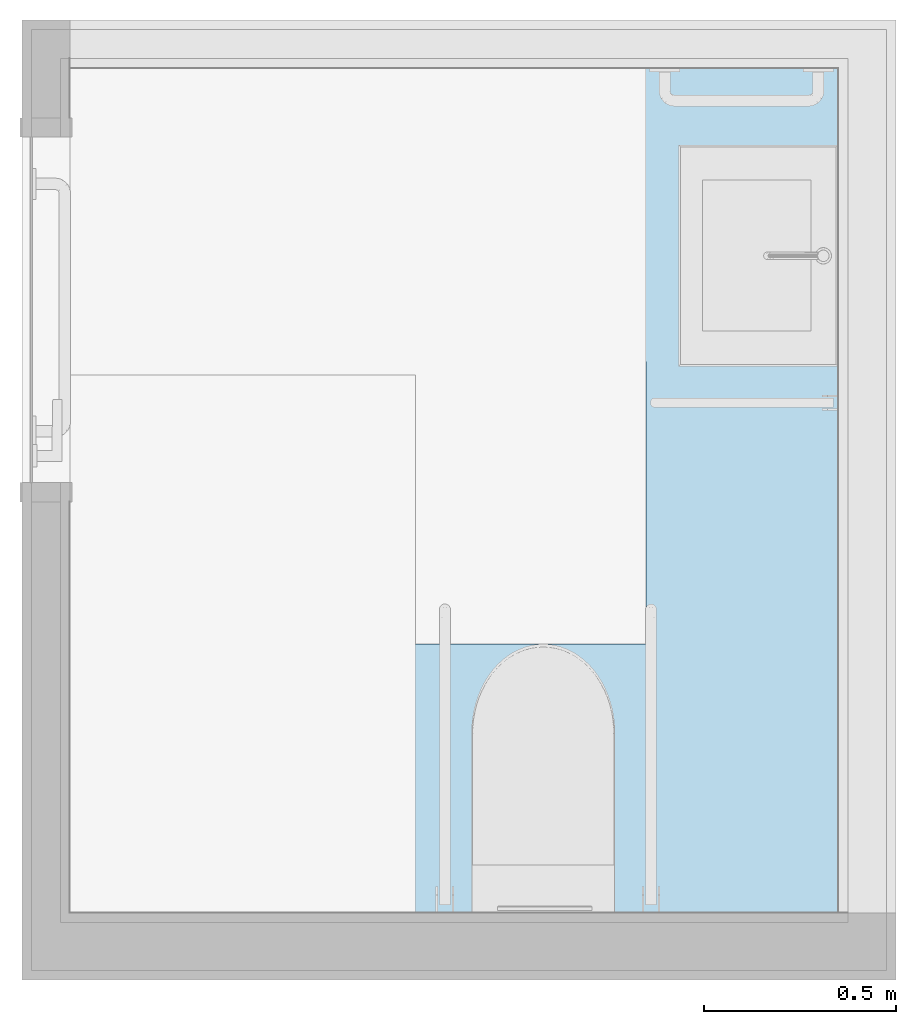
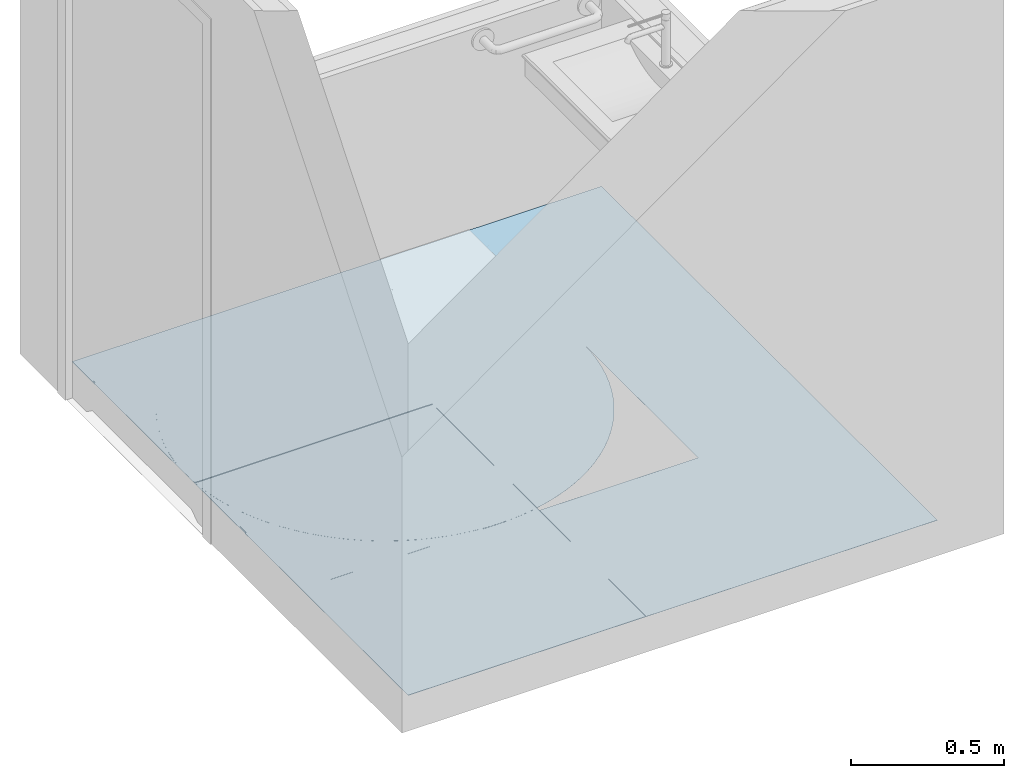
# One storey, part 1 of 4: 1 slab.
"""IFC2X3 building model written with IfcOpenShell, lengths in millimetres."""

from ifc_helpers import new_model, si_unit, frame, origin_with_axes, place, context, subcontext, project, spatial, faceted_brep, material, type_object, element, save


model = new_model("IFC2X3")

# Units and contexts
model_context = context("Model", 3, world=origin_with_axes())
body_context = subcontext(model_context, "Body", "Model", "MODEL_VIEW")
ifc_project = project(units=[si_unit("LENGTHUNIT", "METRE", prefix="MILLI"), si_unit("AREAUNIT", "SQUARE_METRE"), si_unit("VOLUMEUNIT", "CUBIC_METRE")], contexts=[model_context])

# Site, building, storey
site_placement = place(None, origin_with_axes())
site = spatial("IfcSite", under=ifc_project, at=site_placement, Name="Default Site", CompositionType="ELEMENT")
building_placement = place(site_placement, frame((2276.0499999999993, -7.219114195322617e-13, 0.0), z_axis=(0.0, 0.0, 1.0), x_axis=(2.9143354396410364e-16, 1.0, 0.0)))
building = spatial("IfcBuilding", under=site, at=building_placement, Name="Default Building", CompositionType="ELEMENT")
storey_placement = place(building_placement, origin_with_axes())
storey = spatial("IfcBuildingStorey", under=building, at=storey_placement, Name="Default Building Storey", CompositionType="ELEMENT", Elevation=0.0)

# Slab
ifc_material = material(Name="Marble_01_1K")
slab_type = type_object("IfcSlabType", Name="Podłoga", PredefinedType="FLOOR")
slab_placement = place(storey_placement, frame((175.00000000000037, 149.99999999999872, 0.0), z_axis=(0.0, 0.0, 1.0), x_axis=(1.0, 0.0, 0.0)))
element("IfcSlab", 1, at=slab_placement, inside=storey, type_object=slab_type, material=ifc_material, Name="Podłoga", context=body_context, shape_type="Brep", body=[
    faceted_brep([(1450.00000000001, 501.05000000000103, 0.9999999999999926), (2200.0000000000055, 501.0500000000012, 0.9999999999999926), (2200.0000000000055, 501.0500000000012, 1.2000000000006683), (1450.00000000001, 501.05000000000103, 1.2000000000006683), (700.0000000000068, 1251.0500000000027, 1.4999999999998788), (700.0000000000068, 1251.0500000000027, 1.1999999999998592), (701.4799536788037, 1203.9571103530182, 1.2000000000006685), (701.4799536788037, 1203.9571103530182, 1.4999999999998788), (2020.070000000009, 2001.050000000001, 0.0), (1400.0000000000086, 2001.0500000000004, 0.0), (1400.0000000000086, 2001.0500000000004, 0.9999999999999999), (1450.0000000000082, 2001.0500000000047, 0.9999999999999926), (1450.0000000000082, 2001.0500000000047, 1.200000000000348), (2020.070000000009, 2001.050000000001, 1.2000000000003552), (2020.070000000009, 2001.050000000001, 0.9999999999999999), (1120.0700000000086, 2001.0499999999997, 0.0), (1120.0700000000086, 2001.0499999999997, 0.9999999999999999), (1120.0700000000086, 2001.0499999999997, 1.2), (1400.0000000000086, 2001.0500000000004, 1.2), (2200.0000000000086, 2001.050000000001, 0.0), (2070.0700000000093, 2001.050000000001, 0.0), (2070.0700000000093, 2001.050000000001, 0.9999999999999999), (2070.0700000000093, 2001.050000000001, 1.2000000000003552), (2200.0000000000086, 2001.050000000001, 1.2000000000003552), (705.9139740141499, 1157.0500748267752, 1.2000000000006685), (705.9139740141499, 1157.0500748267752, 1.4999999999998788), (713.2845619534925, 1110.5140140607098, 1.4999999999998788), (713.2845619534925, 1110.5140140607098, 1.2000000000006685), (715.4000197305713, 1101.0500000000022, 1.2000000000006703), (715.4000197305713, 1101.0500000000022, 1.4999999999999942), (2200.0000000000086, 0.0, 0.9999999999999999), (700.0000000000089, 501.050000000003, 0.9999999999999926), (700.0000000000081, 1101.0500000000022, 0.9999999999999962), (0.0, 1101.050000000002, 0.9999999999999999), (8.66293703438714e-12, 7.219114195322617e-13, 0.9999999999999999), (705.9139740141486, 1345.049925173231, 1.4999999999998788), (705.9139740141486, 1345.049925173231, 1.1999999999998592), (701.4799536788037, 1298.1428896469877, 1.1999999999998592), (701.4799536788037, 1298.1428896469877, 1.4999999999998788), (736.7076127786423, 1482.8127457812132, 1.4999999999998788), (736.7076127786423, 1482.8127457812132, 1.1999999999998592), (723.5626291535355, 1437.5674153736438, 1.1999999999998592), (723.5626291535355, 1437.5674153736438, 1.4999999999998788), (700.0000000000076, 1551.0500000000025, 1.2), (700.0000000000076, 1551.0500000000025, 0.9999999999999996), (700.0000000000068, 1251.0500000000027, 0.9999999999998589), (700.0000000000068, 2001.0500000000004, 1.1999999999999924), (700.0000000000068, 2001.0500000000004, 0.9999999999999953), (1400.0000000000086, 1999.2952434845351, 0.9999999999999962), (1402.9071103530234, 1999.5700463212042, 0.9999999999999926), (1396.7998126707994, 1998.9927367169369, 0.9999999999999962), (1396.7998126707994, 1998.9927367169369, 1.1999999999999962), (1396.7998126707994, 1998.9927367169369, 1.499999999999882), (1396.7998126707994, 1998.9927367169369, 1.999999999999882), (1400.0000000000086, 1999.2952434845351, 1.9999999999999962), (1400.0000000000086, 1999.2952434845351, 1.4999999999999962), (0.0, 1101.050000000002, 0.0), (1400.0000000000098, 1101.0500000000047, 0.0), (1400.0000000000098, 1101.0500000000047, 1.4999999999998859), (700.0000000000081, 1101.0500000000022, 1.2000000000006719), (2200.0000000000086, 3.6095570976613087e-13, 0.0), (2200.0000000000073, 1251.0500000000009, 1.200000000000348), (749.7583284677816, 1519.062503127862, 1.4999999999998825), (749.7583284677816, 1519.062503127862, 1.1999999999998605), (713.2845619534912, 1391.5859859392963, 1.4999999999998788), (713.2845619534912, 1391.5859859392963, 1.1999999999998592), (2070.0700000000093, 1996.0500000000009, 0.9999999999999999), (2020.070000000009, 1996.0500000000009, 0.9999999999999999), (2020.070000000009, 1996.0500000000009, 1.2000000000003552), (2070.0700000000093, 1996.0500000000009, 1.2000000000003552), (1402.9071103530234, 1999.5700463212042, 1.4999999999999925), (1450.0000000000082, 2001.0500000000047, 1.4999999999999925), (8.73061622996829e-12, 2001.0500000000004, 0.0), (1070.0700000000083, 2001.0499999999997, 1.3359591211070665e-13), (1070.0700000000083, 1996.0500000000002, 0.0), (1120.0700000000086, 1996.0500000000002, 1.3359591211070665e-13), (700.0000000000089, 501.050000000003, 1.2000000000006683), (1173.9065854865, 1948.382364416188, 1.4999999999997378), (1173.9065854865, 1948.382364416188, 1.1999999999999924), (1130.6655313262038, 1929.6702893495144, 1.1999999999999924), (1130.6655313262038, 1929.6702893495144, 1.4999999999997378), (816.7540558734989, 1652.9200962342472, 1.4999999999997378), (816.7540558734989, 1652.9200962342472, 1.1999999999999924), (792.7699899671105, 1612.365255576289, 1.1999999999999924), (792.7699899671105, 1612.365255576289, 1.4999999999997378), (1088.684744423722, 1908.2800100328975, 1.1999999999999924), (1088.684744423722, 1908.2800100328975, 1.4999999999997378), (1356.0000748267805, 1995.136025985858, 1.4999999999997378), (1356.0000748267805, 1995.136025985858, 1.1999999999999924), (1309.4640140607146, 1987.765438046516, 1.1999999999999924), (1309.4640140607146, 1987.765438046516, 1.4999999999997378), (1048.1299037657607, 1884.2959441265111, 1.1999999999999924), (1048.1299037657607, 1884.2959441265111, 1.4999999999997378), (903.2735294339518, 1764.460329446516, 1.4999999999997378), (903.2735294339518, 1764.460329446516, 1.1999999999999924), (872.1150679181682, 1729.1179923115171, 1.1999999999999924), (872.1150679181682, 1729.1179923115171, 1.4999999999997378), (791.4989912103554, 1609.8707800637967, 1.1999999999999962), (791.4989912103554, 1609.8707800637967, 1.499999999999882), (1263.4825846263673, 1977.4873708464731, 1.4999999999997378), (1263.4825846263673, 1977.4873708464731, 1.1999999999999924), (1218.2372542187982, 1964.342387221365, 1.1999999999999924), (1218.2372542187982, 1964.342387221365, 1.4999999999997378), (1996.7264705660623, 1764.4603294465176, 1.4999999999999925), (1996.7264705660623, 1764.4603294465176, 1.200000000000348), (1963.4103294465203, 1797.7764705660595, 1.200000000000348), (1963.4103294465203, 1797.7764705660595, 1.4999999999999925), (2176.4373708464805, 1437.5674153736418, 1.4999999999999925), (2176.4373708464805, 1437.5674153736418, 1.200000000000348), (2163.2923872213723, 1482.8127457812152, 1.200000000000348), (2163.2923872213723, 1482.8127457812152, 1.4999999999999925), (2186.715438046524, 1391.585985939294, 1.4999999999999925), (2186.715438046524, 1391.585985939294, 1.200000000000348), (2027.8849320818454, 1729.1179923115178, 1.4999999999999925), (2027.8849320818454, 1729.1179923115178, 1.200000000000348), (1009.1610607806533, 1857.8127457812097, 1.4999999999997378), (1009.1610607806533, 1857.8127457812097, 1.1999999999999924), (971.9320076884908, 1828.9349320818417, 1.1999999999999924), (971.9320076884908, 1828.9349320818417, 1.4999999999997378), (1088.684744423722, 593.8199899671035, 1.4999999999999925), (1088.684744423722, 593.8199899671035, 1.2000000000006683), (1130.6655313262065, 572.4297106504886, 1.2000000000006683), (1130.6655313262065, 572.4297106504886, 1.4999999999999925), (872.1150679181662, 772.982007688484, 1.4999999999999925), (872.1150679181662, 772.982007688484, 1.2000000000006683), (903.2735294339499, 737.6396705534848, 1.2000000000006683), (903.2735294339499, 737.6396705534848, 1.4999999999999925), (771.3797106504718, 931.7155313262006, 1.4999999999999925), (771.3797106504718, 931.7155313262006, 1.2000000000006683), (792.7699899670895, 889.7347444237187, 1.2000000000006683), (792.7699899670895, 889.7347444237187, 1.4999999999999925), (936.5896705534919, 704.3235294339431, 1.2000000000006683), (936.5896705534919, 704.3235294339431, 1.4999999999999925), (843.2372542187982, 810.2110607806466, 1.4999999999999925), (843.2372542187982, 810.2110607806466, 1.2000000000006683), (816.7540558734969, 849.1799037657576, 1.2000000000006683), (816.7540558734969, 849.1799037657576, 1.4999999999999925), (1402.9071103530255, 502.5299536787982, 1.4999999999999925), (1402.9071103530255, 502.5299536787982, 1.2000000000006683), (1450.00000000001, 501.05000000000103, 1.4999999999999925), (1497.0928896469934, 1999.5700463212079, 1.4999999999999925), (1497.0928896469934, 1999.5700463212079, 1.200000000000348), (1636.5174153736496, 1977.487370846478, 1.4999999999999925), (1636.5174153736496, 1977.487370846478, 1.200000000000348), (1590.5359859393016, 1987.765438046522, 1.200000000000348), (1590.5359859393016, 1987.765438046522, 1.4999999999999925), (1309.4640140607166, 514.3345619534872, 1.4999999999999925), (1309.4640140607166, 514.3345619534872, 1.2000000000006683), (1356.0000748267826, 506.96397401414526, 1.2000000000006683), (1356.0000748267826, 506.96397401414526, 1.4999999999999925), (2200.0000000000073, 1251.0500000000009, 1.4999999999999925), (2198.520046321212, 1298.1428896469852, 1.200000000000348), (2198.520046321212, 1298.1428896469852, 1.4999999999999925), (1681.7627457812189, 1964.34238722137, 1.4999999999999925), (1681.7627457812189, 1964.34238722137, 1.200000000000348), (2128.6202893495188, 1570.3844686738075, 1.4999999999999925), (2128.6202893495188, 1570.3844686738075, 1.200000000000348), (2107.230010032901, 1612.3652555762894, 1.200000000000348), (2107.230010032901, 1612.3652555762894, 1.4999999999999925), (2083.2459441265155, 1652.9200962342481, 1.4999999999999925), (2083.2459441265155, 1652.9200962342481, 1.200000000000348), (2056.762745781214, 1691.8889392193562, 1.200000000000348), (2056.762745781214, 1691.8889392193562, 1.4999999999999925), (843.2372542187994, 1691.8889392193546, 1.1999999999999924), (843.2372542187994, 1691.8889392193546, 1.4999999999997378), (2147.3323644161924, 1527.143414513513, 1.200000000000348), (2147.3323644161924, 1527.143414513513, 1.4999999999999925), (1811.3152555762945, 1908.2800100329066, 1.4999999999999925), (1811.3152555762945, 1908.2800100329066, 1.200000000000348), (1769.3344686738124, 1929.6702893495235, 1.200000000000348), (1769.3344686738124, 1929.6702893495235, 1.4999999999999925), (1928.0679923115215, 1828.9349320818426, 1.4999999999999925), (1928.0679923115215, 1828.9349320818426, 1.200000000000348), (1890.838939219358, 1857.8127457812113, 1.200000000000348), (1890.838939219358, 1857.8127457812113, 1.4999999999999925), (1173.906585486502, 553.7176355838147, 1.2000000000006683), (1173.906585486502, 553.7176355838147, 1.4999999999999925), (936.5896705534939, 1797.7764705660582, 1.1999999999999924), (936.5896705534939, 1797.7764705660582, 1.4999999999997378), (1218.2372542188, 537.7576127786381, 1.4999999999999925), (1218.2372542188, 537.7576127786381, 1.2000000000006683), (1263.4825846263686, 524.6126291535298, 1.2000000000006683), (1263.4825846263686, 524.6126291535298, 1.4999999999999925), (971.9320076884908, 673.1650679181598, 1.2000000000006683), (971.9320076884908, 673.1650679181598, 1.4999999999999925), (1048.1299037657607, 617.8040558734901, 1.4999999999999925), (1048.1299037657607, 617.8040558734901, 1.2000000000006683), (1009.1610607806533, 644.2872542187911, 1.2000000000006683), (1009.1610607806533, 644.2872542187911, 1.4999999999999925), (1543.9999251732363, 1995.136025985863, 1.4999999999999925), (1543.9999251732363, 1995.136025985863, 1.200000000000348), (2198.5200463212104, 1203.9571103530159, 1.2000000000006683), (2194.0860259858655, 1157.0500748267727, 1.2000000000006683), (2186.715438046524, 1110.5140140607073, 1.2000000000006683), (2176.437370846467, 1064.5325846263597, 1.2000000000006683), (2163.2923872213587, 1019.2872542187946, 1.2000000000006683), (2147.332364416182, 974.9565854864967, 1.2000000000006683), (2128.6202893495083, 931.7155313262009, 1.2000000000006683), (2107.2300100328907, 889.734744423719, 1.2000000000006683), (2083.245944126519, 849.1799037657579, 1.2000000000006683), (2056.762745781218, 810.2110607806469, 1.2000000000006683), (2027.8849320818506, 772.9820076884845, 1.2000000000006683), (1996.7264705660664, 737.6396705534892, 1.2000000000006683), (1963.4103294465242, 704.3235294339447, 1.2000000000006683), (1928.0679923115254, 673.1650679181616, 1.2000000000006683), (1890.8389392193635, 644.2872542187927, 1.2000000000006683), (1851.8700962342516, 617.8040558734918, 1.2000000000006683), (1811.3152555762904, 593.8199899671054, 1.2000000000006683), (1769.3344686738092, 572.4297106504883, 1.2000000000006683), (1726.0934145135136, 553.7176355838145, 1.2000000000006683), (1681.7627457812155, 537.7576127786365, 1.2000000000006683), (1636.5174153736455, 524.6126291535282, 1.2000000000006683), (1590.5359859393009, 514.334561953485, 1.2000000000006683), (1543.9999251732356, 506.9639740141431, 1.2000000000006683), (1497.092889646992, 502.5299536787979, 1.2000000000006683), (752.6676355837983, 974.9565854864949, 1.2000000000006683), (736.7076127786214, 1019.2872542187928, 1.2000000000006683), (723.5626291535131, 1064.532584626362, 1.2000000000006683), (1851.8700962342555, 1884.29594412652, 1.200000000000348), (1851.8700962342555, 1884.29594412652, 1.4999999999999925), (1726.0934145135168, 1948.3823644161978, 1.200000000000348), (1726.0934145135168, 1948.3823644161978, 1.4999999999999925), (736.7076127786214, 1019.2872542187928, 1.4999999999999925), (752.6676355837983, 974.9565854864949, 1.4999999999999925), (723.5626291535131, 1064.532584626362, 1.4999999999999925), (2194.0860259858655, 1345.0499251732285, 1.200000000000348), (2194.0860259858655, 1345.0499251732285, 1.4999999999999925), (2176.437370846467, 1064.5325846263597, 1.4999999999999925), (2186.715438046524, 1110.5140140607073, 1.4999999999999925), (1726.0934145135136, 553.7176355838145, 1.4999999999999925), (1769.3344686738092, 572.4297106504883, 1.4999999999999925), (1811.3152555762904, 593.8199899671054, 1.4999999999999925), (1851.8700962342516, 617.8040558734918, 1.4999999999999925), (2083.245944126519, 849.1799037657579, 1.4999999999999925), (2107.2300100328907, 889.734744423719, 1.4999999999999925), (1497.092889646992, 502.5299536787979, 1.4999999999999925), (2198.5200463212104, 1203.9571103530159, 1.4999999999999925), (1543.9999251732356, 506.9639740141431, 1.4999999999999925), (1590.5359859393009, 514.334561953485, 1.4999999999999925), (1636.5174153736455, 524.6126291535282, 1.4999999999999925), (1681.7627457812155, 537.7576127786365, 1.4999999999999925), (1890.8389392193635, 644.2872542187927, 1.4999999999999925), (1928.0679923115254, 673.1650679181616, 1.4999999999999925), (1963.4103294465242, 704.3235294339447, 1.4999999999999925), (1996.7264705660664, 737.6396705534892, 1.4999999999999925), (2027.8849320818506, 772.9820076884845, 1.4999999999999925), (2056.762745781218, 810.2110607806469, 1.4999999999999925), (2128.6202893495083, 931.7155313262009, 1.4999999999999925), (2147.332364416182, 974.9565854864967, 1.4999999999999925), (2163.2923872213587, 1019.2872542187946, 1.4999999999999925), (2194.0860259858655, 1157.0500748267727, 1.4999999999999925), (1070.0700000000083, 2001.0499999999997, 1.0000000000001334), (1070.0700000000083, 1996.0500000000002, 0.9999999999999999), (2020.070000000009, 1996.0500000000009, 0.0), (2070.0700000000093, 1996.0500000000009, 0.0), (1120.0700000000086, 1996.0500000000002, 1.0000000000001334), (1120.0700000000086, 1996.0500000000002, 1.2000000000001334), (1070.0700000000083, 1996.0500000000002, 1.2), (8.73061622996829e-12, 2001.0500000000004, 1.0000000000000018), (1070.0700000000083, 2001.0499999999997, 1.2000000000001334), (0.0, 1101.050000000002, 1.7), (8.73061622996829e-12, 2001.0500000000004, 1.7000000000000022), (8.66293703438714e-12, 7.219114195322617e-13, 0.0)], [[[0, 1, 2, 3]], [[4, 5, 6, 7]], [[8, 9, 10, 11, 12, 13, 14]], [[9, 15, 16, 17, 18, 10]], [[19, 20, 21, 22, 23]], [[7, 6, 24, 25]], [[26, 27, 28, 29]], [[30, 1, 0, 31, 32, 33, 34]], [[35, 36, 37, 38]], [[39, 40, 41, 42]], [[5, 43, 44, 45]], [[38, 37, 5, 4]], [[43, 46, 47, 44]], [[10, 48, 49, 11]], [[48, 50, 51, 52, 53, 54, 55]], [[56, 57, 58, 29, 28, 59, 32, 33]], [[60, 19, 23, 61, 2, 1, 30]], [[62, 63, 40, 39]], [[64, 65, 36, 35]], [[42, 41, 65, 64]], [[57, 9, 10, 48, 55, 58]], [[66, 67, 68, 69]], [[11, 49, 70, 71, 12]], [[50, 10, 18, 51]], [[72, 73, 74, 75, 15, 9, 57, 56]], [[49, 48, 55, 70]], [[21, 66, 69, 22]], [[31, 0, 3, 76]], [[59, 5, 45, 32]], [[10, 50, 48]], [[25, 24, 27, 26]], [[77, 78, 79, 80]], [[81, 82, 83, 84]], [[80, 79, 85, 86]], [[87, 88, 89, 90]], [[86, 85, 91, 92]], [[93, 94, 95, 96]], [[52, 51, 88, 87]], [[84, 83, 97, 98]], [[99, 100, 101, 102]], [[102, 101, 78, 77]], [[103, 104, 105, 106]], [[107, 108, 109, 110]], [[111, 112, 108, 107]], [[113, 114, 104, 103]], [[115, 116, 117, 118]], [[119, 120, 121, 122]], [[123, 124, 125, 126]], [[127, 128, 129, 130]], [[126, 125, 131, 132]], [[133, 134, 124, 123]], [[92, 91, 116, 115]], [[130, 129, 135, 136]], [[137, 138, 3, 139]], [[136, 135, 134, 133]], [[140, 141, 12, 71]], [[142, 143, 144, 145]], [[146, 147, 148, 149]], [[150, 61, 151, 152]], [[153, 154, 143, 142]], [[155, 156, 157, 158]], [[159, 160, 161, 162]], [[96, 95, 163, 164]], [[110, 109, 165, 166]], [[167, 168, 169, 170]], [[164, 163, 82, 81]], [[171, 172, 173, 174]], [[122, 121, 175, 176]], [[118, 117, 177, 178]], [[32, 31, 76, 59]], [[179, 180, 181, 182]], [[132, 131, 183, 184]], [[185, 186, 120, 119]], [[184, 183, 187, 188]], [[189, 190, 141, 140]], [[2, 61, 191, 192, 193, 194, 195, 196, 197, 198, 199, 200, 201, 202, 203, 204, 205, 206, 207, 208, 209, 210, 211, 212, 213, 214, 3, 138, 148, 147, 181, 180, 175, 121, 120, 186, 187, 183, 131, 125, 124, 134, 135, 129, 128, 215, 216, 217, 28, 59, 76, 3]], [[90, 89, 100, 99]], [[174, 173, 218, 219]], [[182, 181, 147, 146]], [[149, 148, 138, 137]], [[158, 157, 160, 159]], [[166, 165, 156, 155]], [[145, 144, 190, 189]], [[170, 169, 220, 221]], [[222, 216, 215, 223]], [[223, 215, 128, 127]], [[29, 28, 217, 224]], [[178, 177, 94, 93]], [[13, 12, 141, 190, 144, 143, 154, 220, 169, 168, 218, 173, 172, 105, 104, 114, 161, 160, 157, 156, 165, 109, 108, 112, 225, 151, 61, 23, 22, 69, 68]], [[188, 187, 186, 185]], [[224, 217, 216, 222]], [[221, 220, 154, 153]], [[226, 225, 112, 111]], [[176, 175, 180, 179]], [[106, 105, 172, 171]], [[219, 218, 168, 167]], [[227, 194, 193, 228]], [[162, 161, 114, 113]], [[229, 209, 208, 230]], [[231, 207, 206, 232]], [[233, 199, 198, 234]], [[139, 3, 214, 235]], [[230, 208, 207, 231]], [[236, 191, 61, 150]], [[58, 29, 224, 222, 223, 127, 130, 136, 133, 123, 126, 132, 184, 188, 185, 119, 122, 176, 179, 182, 146, 149, 137, 139, 235, 237, 238, 239, 240, 229, 230, 231, 232, 241, 242, 243, 244, 245, 246, 233, 234, 247, 248, 249, 227, 228, 250, 236, 150, 152, 226, 111, 107, 110, 166, 155, 158, 159, 162, 113, 103, 106, 171, 174, 219, 167, 170, 221, 153, 142, 145, 189, 140, 71, 70, 55]], [[244, 202, 201, 245]], [[228, 193, 192, 250]], [[245, 201, 200, 246]], [[235, 214, 213, 237]], [[237, 213, 212, 238]], [[239, 211, 210, 240]], [[248, 196, 195, 249]], [[234, 198, 197, 247]], [[238, 212, 211, 239]], [[247, 197, 196, 248]], [[249, 195, 194, 227]], [[240, 210, 209, 229]], [[152, 151, 225, 226]], [[232, 206, 205, 241]], [[246, 200, 199, 233]], [[250, 192, 191, 236]], [[242, 204, 203, 243]], [[243, 203, 202, 244]], [[241, 205, 204, 242]], [[251, 252, 74, 73]], [[20, 8, 253, 254]], [[14, 67, 253, 8]], [[255, 16, 15, 75]], [[66, 21, 20, 254]], [[67, 66, 254, 253]], [[252, 255, 75, 74]], [[21, 14, 67, 66]], [[14, 21, 20, 8]], [[16, 251, 252, 255]], [[16, 255, 256, 17]], [[255, 252, 257, 256]], [[251, 73, 72, 258, 47, 46, 259]], [[72, 56, 33, 260, 261, 258]], [[252, 251, 259, 257]], [[262, 60, 30, 34]], [[56, 262, 34, 33]], [[67, 14, 13, 68]]]),
    faceted_brep([(771.3797106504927, 1570.384468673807, 1.1999999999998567), (752.6676355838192, 1527.143414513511, 1.1999999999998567), (752.6676355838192, 1527.143414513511, 1.6999999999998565), (771.3797106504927, 1570.384468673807, 1.6999999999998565), (791.4989912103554, 1609.8707800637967, 1.1999999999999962), (791.4989912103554, 1609.8707800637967, 1.6999999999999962), (791.4989912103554, 1609.8707800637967, 1.499999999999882), (749.7583284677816, 1519.062503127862, 1.1999999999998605), (749.7583284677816, 1519.062503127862, 1.4999999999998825), (749.7583284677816, 1519.062503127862, 1.6999999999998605), (1400.0000000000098, 1101.0500000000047, 1.4999999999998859), (1400.0000000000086, 1999.2952434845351, 1.4999999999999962), (1400.0000000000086, 1999.2952434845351, 1.9999999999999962), (1400.0000000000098, 1101.0500000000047, 1.9999999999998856)], [[[0, 1, 2, 3]], [[4, 0, 3, 5, 6]], [[1, 7, 8, 9, 2]], [[10, 11, 12, 13]]]),
])

save(model, "model.ifc")
